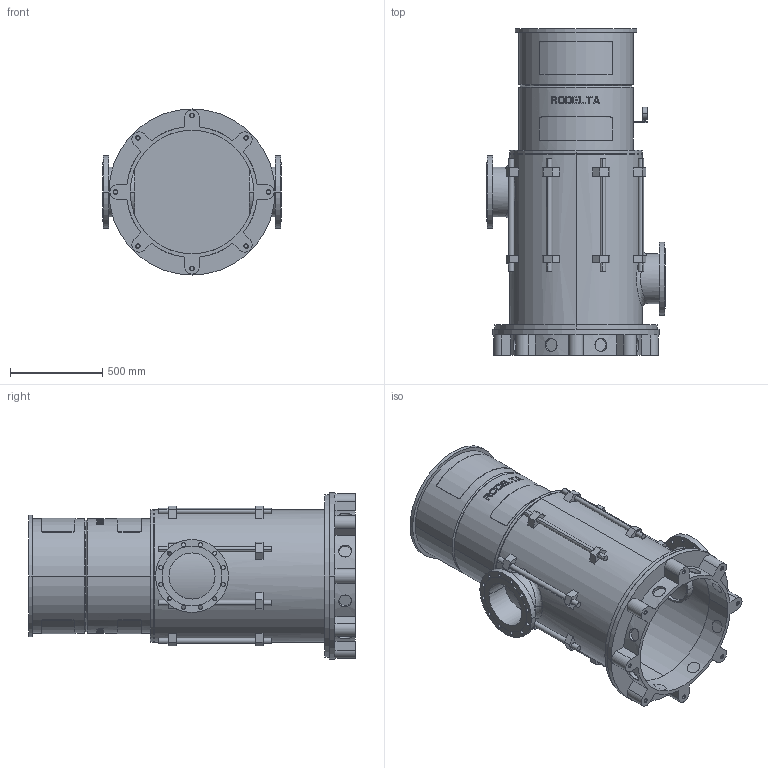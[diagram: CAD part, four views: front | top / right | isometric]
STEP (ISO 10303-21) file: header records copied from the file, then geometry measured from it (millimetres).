
FILE_DESCRIPTION((''),'2;1');
FILE_NAME('LS10_1TR_0GR','2025-10-20T10:58:09',('Lyritlocal'),(''),'CREO PARAMETRIC BY PTC INC, 2022014','CREO PARAMETRIC BY PTC INC, 2022014','');
FILE_SCHEMA(('CONFIG_CONTROL_DESIGN'));
Length unit declared in the file: millimetre
Products named in the file (1): LS10_1TR_0GR
Bounding box: 970 x 1770 x 900 mm (x, y, z)
Volume: 82857055.8 mm3; surface area: 11020490.6 mm2
Topology: 3 solids, 11 shells, 752 faces, 1934 edges, 1288 vertices
Faces by surface type: plane 462, cylinder 274, cone 12, bspline 4
Entity records: 24393 total; most frequent: CARTESIAN_POINT 6047, ORIENTED_EDGE 3836, DIRECTION 3662, EDGE_CURVE 1934, AXIS2_PLACEMENT_3D 1381, VERTEX_POINT 1288, EDGE_LOOP 924, VECTOR 900
